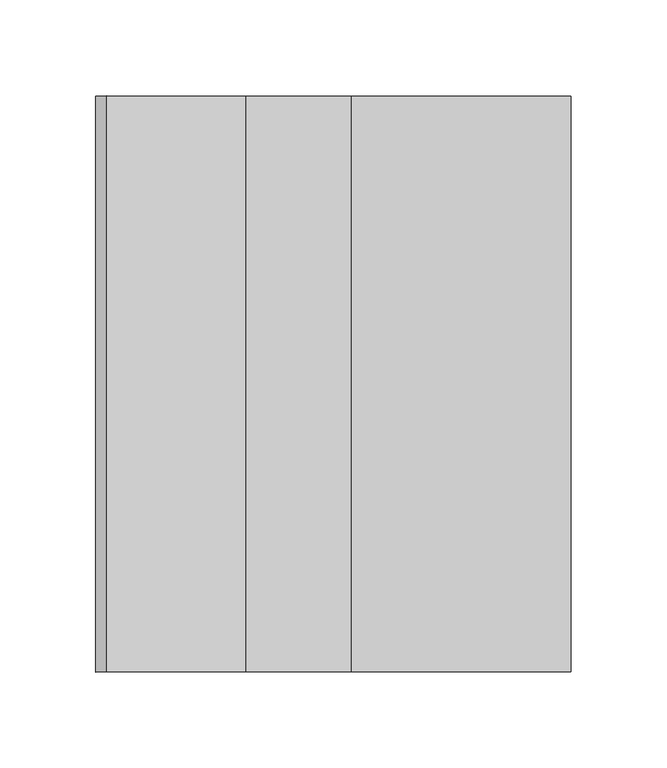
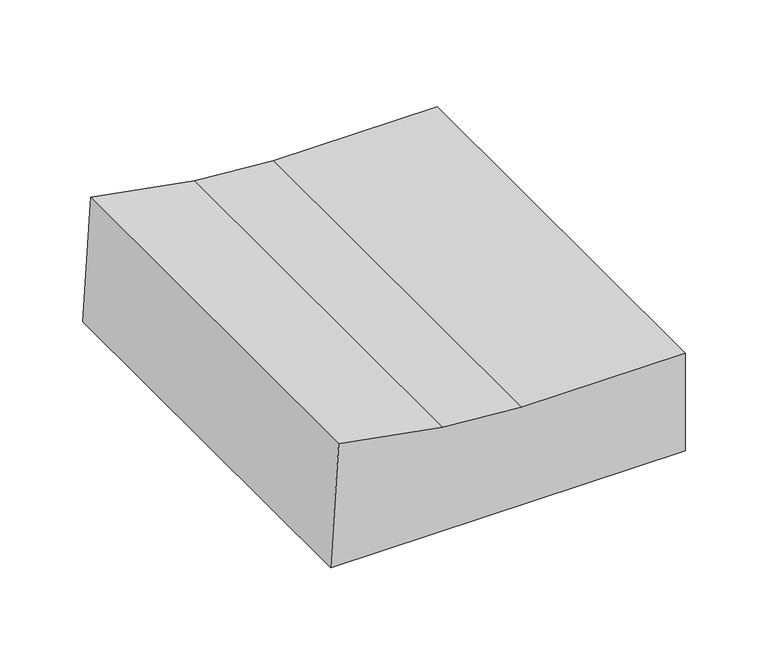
"""IFC4 building model written with IfcOpenShell, lengths in millimetres: geographic element geometry, Enscape AssetDefinition - Notebook 002 Stack : Enscape AssetDefinition - Notebook 002 Stack."""

from ifc_helpers import new_model, si_unit, origin, place, context, project, spatial, triangles, source, transform, mapped, element, save


def geographic_element_272661ff(model_context):
    return source(origin(), model_context, "Body", "Tessellation", [
        triangles([(125.0679928, 150.0000102, 0.0), (-44.1749971, 150.0000102, 76.6320049), (-116.778001, 150.0000102, 89.6430021), (125.0679928, -150.0000102, 0.0), (125.0679928, 150.0000102, 71.9999975), (-122.4669979, 150.0000102, 0.0), (-116.778001, -150.0000102, 89.6430021), (10.4890003, 150.0000102, 72.0340025), (-44.1749971, -150.0000102, 76.6320049), (-122.4669979, -150.0000102, 0.0), (125.0679928, -150.0000102, 71.9999975), (10.4890003, -150.0000102, 72.0340025)], [[1, 6, 8], [6, 2, 8], [6, 3, 2], [10, 4, 12], [4, 11, 12], [10, 12, 9], [2, 9, 12], [12, 8, 2], [8, 12, 11], [11, 5, 8], [7, 3, 6], [6, 10, 7], [1, 8, 5], [5, 11, 4], [4, 1, 5], [10, 9, 7], [3, 7, 9], [9, 2, 3], [1, 4, 10], [10, 6, 1]]),
    ])


if __name__ == "__main__":
    model = new_model("IFC4")
    model_context = context("Model", 3, world=origin())
    ifc_project = project(units=[si_unit("LENGTHUNIT", "METRE", prefix="MILLI")], contexts=[model_context])
    site = spatial("IfcSite", under=ifc_project)
    building = spatial("IfcBuilding", under=site)
    placement = place(None, origin())
    geographic_element_shape = geographic_element_272661ff(model_context)
    element("IfcGeographicElement", 1, ObjectType="Enscape AssetDefinition - Notebook 002 Stack : Enscape AssetDefinition - Notebook 002 Stack", at=placement, inside=building, context=model_context, shape_type="MappedRepresentation", body=[
        mapped(geographic_element_shape, transform((0.0, 0.0, 0.0), x_axis=(1.0, 0.0, 0.0), y_axis=(0.0, 1.0, 0.0), z_axis=(0.0, 0.0, 1.0))),
    ])
    save(model, "model.ifc")
